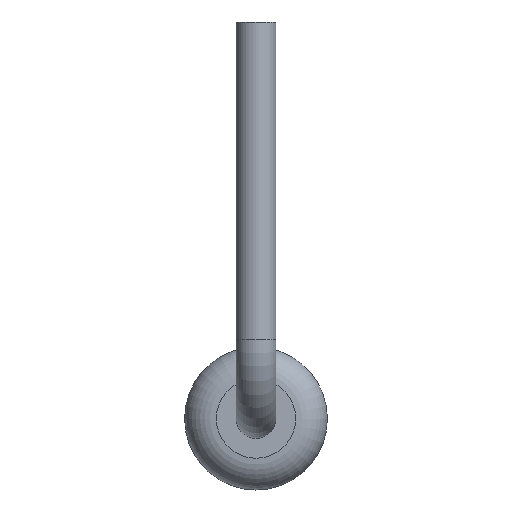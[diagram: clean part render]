
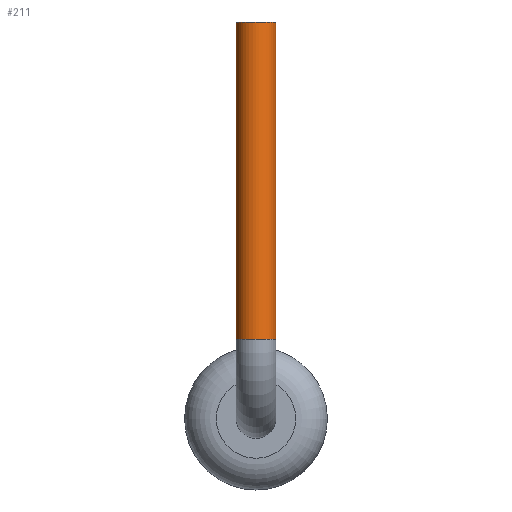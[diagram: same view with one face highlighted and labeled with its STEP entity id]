
A CAD part, left-side view. The second image highlights one B-rep face of the part: STEP entity #211.
In plain terms, the highlighted cylindrical face has radius 0.25 mm (diameter 0.5 mm), a full revolution.
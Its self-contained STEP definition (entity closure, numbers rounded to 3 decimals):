
#211=ADVANCED_FACE('',(#380,#382),#384,.T.);
#380=FACE_OUTER_BOUND('',#381,.T.);
#381=EDGE_LOOP('',(#429));
#382=FACE_OUTER_BOUND('',#383,.T.);
#383=EDGE_LOOP('',(#430));
#384=CYLINDRICAL_SURFACE('',#385,0.25);
#385=AXIS2_PLACEMENT_3D('',#386,#387,#388);
#386=CARTESIAN_POINT('',(-5.,0.,1.));
#387=DIRECTION('',(0.,0.,1.));
#388=DIRECTION('',(-1.,0.,0.));
#429=ORIENTED_EDGE('',*,*,#449,.F.);
#430=ORIENTED_EDGE('',*,*,#448,.T.);
#448=EDGE_CURVE('',#482,#482,#483,.T.);
#449=EDGE_CURVE('',#484,#484,#485,.T.);
#482=VERTEX_POINT('',#566);
#483=CIRCLE('',#567,0.25);
#484=VERTEX_POINT('',#571);
#485=CIRCLE('',#572,0.25);
#566=CARTESIAN_POINT('',(-5.25,0.,1.));
#567=AXIS2_PLACEMENT_3D('',#568,#569,#570);
#568=CARTESIAN_POINT('',(-5.,0.,1.));
#569=DIRECTION('',(0.,0.,1.));
#570=DIRECTION('',(-1.,0.,0.));
#571=CARTESIAN_POINT('',(-5.25,0.,5.));
#572=AXIS2_PLACEMENT_3D('',#573,#574,#575);
#573=CARTESIAN_POINT('',(-5.,0.,5.));
#574=DIRECTION('',(0.,0.,1.));
#575=DIRECTION('',(-1.,0.,0.));
